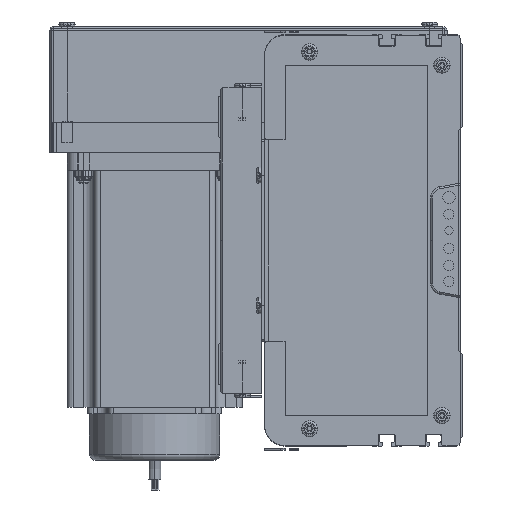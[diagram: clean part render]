
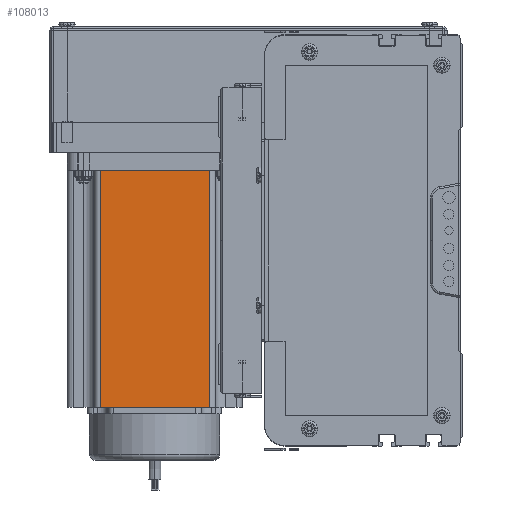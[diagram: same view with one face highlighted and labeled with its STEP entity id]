
A CAD part, left-side view. The second image highlights one B-rep face of the part: STEP entity #108013.
In plain terms, the highlighted planar face has unit normal (-1, 0, 0) as drawn and (0, -1, 0) by its records, which use the part's own axes.
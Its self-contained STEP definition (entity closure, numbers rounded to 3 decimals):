
#19075 = CARTESIAN_POINT ( 'NONE',  ( 69.74, 0., 116.5 ) ) ;
#19076 = LINE ( 'NONE', #19075, #19098 ) ;
#19084 = DIRECTION ( 'NONE',  ( 1., 0., 0. ) ) ;
#19086 = DIRECTION ( 'NONE',  ( 0., 0., 1. ) ) ;
#19088 = CARTESIAN_POINT ( 'NONE',  ( 0., 0., 116.5 ) ) ;
#19094 = VECTOR ( 'NONE', #19084, 1000. ) ;
#19095 = PLANE ( 'NONE',  #19128 ) ;
#19097 = DIRECTION ( 'NONE',  ( 0., 1., 0. ) ) ;
#19098 = VECTOR ( 'NONE', #19336, 1000. ) ;
#19100 = DIRECTION ( 'NONE',  ( 1., 0., 0. ) ) ;
#19101 = VECTOR ( 'NONE', #19100, 1000. ) ;
#19102 = CARTESIAN_POINT ( 'NONE',  ( 0., 0., 0. ) ) ;
#19103 = LINE ( 'NONE', #19102, #19101 ) ;
#19104 = CARTESIAN_POINT ( 'NONE',  ( 0., 0., 116.5 ) ) ;
#19106 = FACE_OUTER_BOUND ( 'NONE', #108284, .T. ) ;
#19128 = AXIS2_PLACEMENT_3D ( 'NONE', #19104, #19097, #19086 ) ;
#19334 = LINE ( 'NONE', #19088, #19094 ) ;
#19336 = DIRECTION ( 'NONE',  ( 0., 0., 1. ) ) ;
#19352 = CARTESIAN_POINT ( 'NONE',  ( 16.16, 0., 0. ) ) ;
#19357 = CARTESIAN_POINT ( 'NONE',  ( 69.74, 0., 116.5 ) ) ;
#19585 = CARTESIAN_POINT ( 'NONE',  ( 69.74, 0., 0. ) ) ;
#21018 = LINE ( 'NONE', #21354, #21327 ) ;
#21226 = CARTESIAN_POINT ( 'NONE',  ( 16.16, 0., 116.5 ) ) ;
#21322 = DIRECTION ( 'NONE',  ( 0., 0., -1. ) ) ;
#21327 = VECTOR ( 'NONE', #21322, 1000. ) ;
#21354 = CARTESIAN_POINT ( 'NONE',  ( 16.16, 0., 116.5 ) ) ;
#108011 = EDGE_CURVE ( 'NONE', #108016, #108040, #19103, .T. ) ;
#108012 = VERTEX_POINT ( 'NONE', #19357 ) ;
#108013 = ADVANCED_FACE ( 'NONE', ( #19106 ), #19095, .F. ) ;
#108014 = ORIENTED_EDGE ( 'NONE', *, *, #108024, .F. ) ;
#108015 = ORIENTED_EDGE ( 'NONE', *, *, #108011, .T. ) ;
#108016 = VERTEX_POINT ( 'NONE', #19352 ) ;
#108021 = EDGE_CURVE ( 'NONE', #108040, #108012, #19076, .T. ) ;
#108022 = ORIENTED_EDGE ( 'NONE', *, *, #108310, .T. ) ;
#108023 = ORIENTED_EDGE ( 'NONE', *, *, #108021, .T. ) ;
#108024 = EDGE_CURVE ( 'NONE', #108288, #108012, #19334, .T. ) ;
#108040 = VERTEX_POINT ( 'NONE', #19585 ) ;
#108284 = EDGE_LOOP ( 'NONE', ( #108015, #108023, #108014, #108022 ) ) ;
#108288 = VERTEX_POINT ( 'NONE', #21226 ) ;
#108310 = EDGE_CURVE ( 'NONE', #108288, #108016, #21018, .T. ) ;
